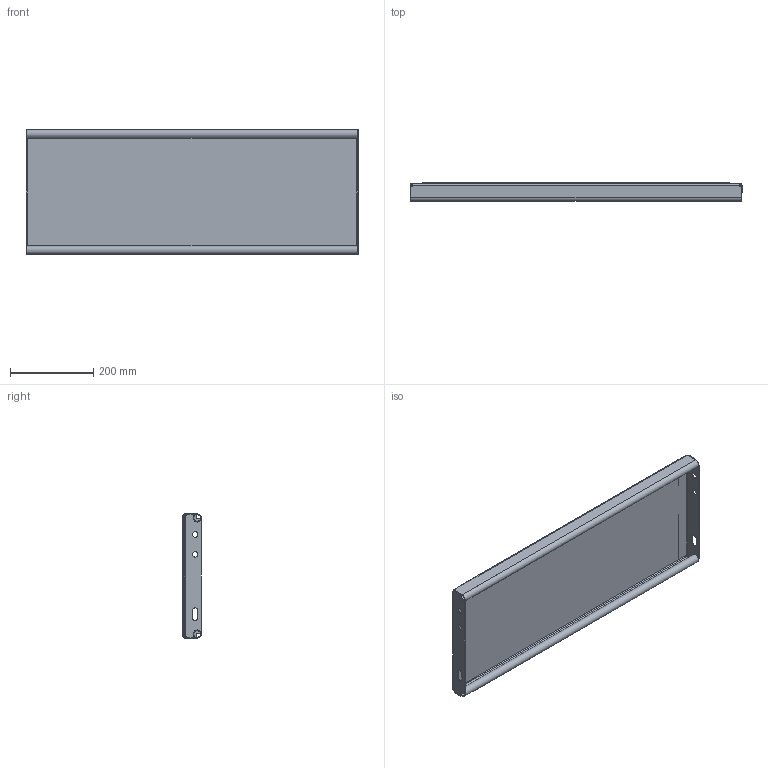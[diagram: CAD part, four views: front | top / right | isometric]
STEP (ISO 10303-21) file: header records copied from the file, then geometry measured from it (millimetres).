
FILE_DESCRIPTION (( 'STEP AP214' ), '1' );
FILE_NAME ('OPTIMO-Tread-Achil-O2-800x300x45x2-st240-F100520100_plain.STEP', '2021-03-18T12:07:24', ( '' ), ( '' ), 'SwSTEP 2.0', 'SolidWorks 2021', '' );
FILE_SCHEMA (( 'AUTOMOTIVE_DESIGN' ));
Length unit declared in the file: millimetre
Products named in the file (1): OPTIMO-Tread-Achil-O2-800x300x45x2-st240-F100520100_plain
Bounding box: 800 x 45 x 300 mm (x, y, z)
Volume: 1416971.5 mm3; surface area: 781140.2 mm2
Topology: 1 solids, 1 shells, 252 faces, 652 edges, 420 vertices
Faces by surface type: plane 173, cylinder 40, bspline 39
Entity records: 10072 total; most frequent: CARTESIAN_POINT 4116, ORIENTED_EDGE 1304, DIRECTION 1050, EDGE_CURVE 652, LINE 494, VECTOR 494, VERTEX_POINT 420, EDGE_LOOP 282
